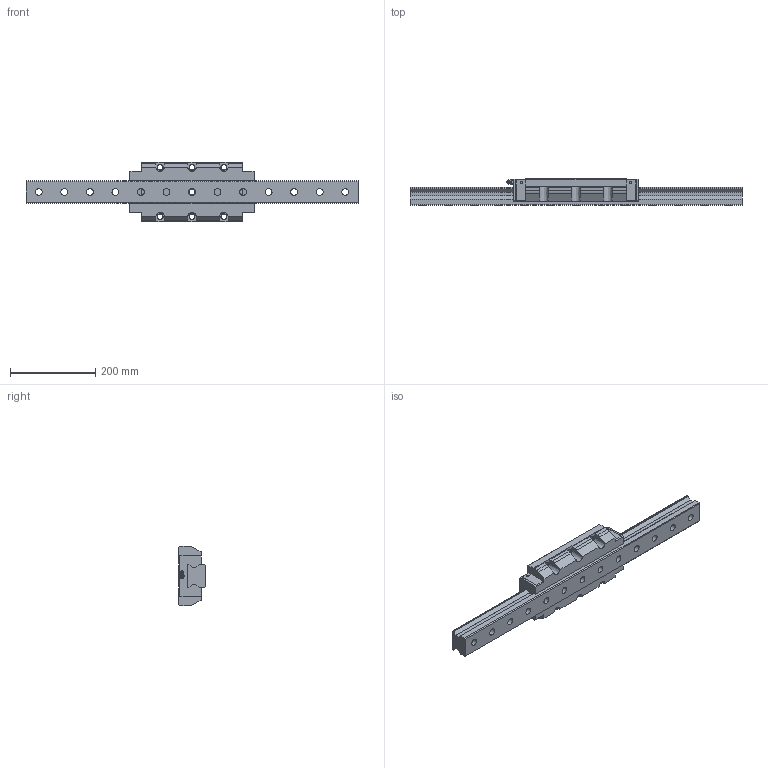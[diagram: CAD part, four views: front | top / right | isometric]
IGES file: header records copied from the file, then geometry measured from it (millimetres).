
Start section: Data from Parasolid IGES Translator 26.0.171, Copyright(c) 2006 Siemens PLM Software. All Rights Reserved.
Global section: file name: SRN55SLC1SS-780L_G30_0_B-PT18_244_0_0_0.igs; native system: By Siemens PLM Incorporated; preprocessor: XPlus GENERIC/IGES 26.0.171; author: Noname; organization: Noname; date: 20240523.104546; units: millimetre
Bounding box: 780 x 63 x 140 mm (x, y, z)
Surface area: 339889.7 mm2 (no closed solid volume)
Topology: 0 solids, 0 shells, 286 faces, 1557 edges, 1478 vertices
Faces by surface type: extrusion 178, revolution 108
